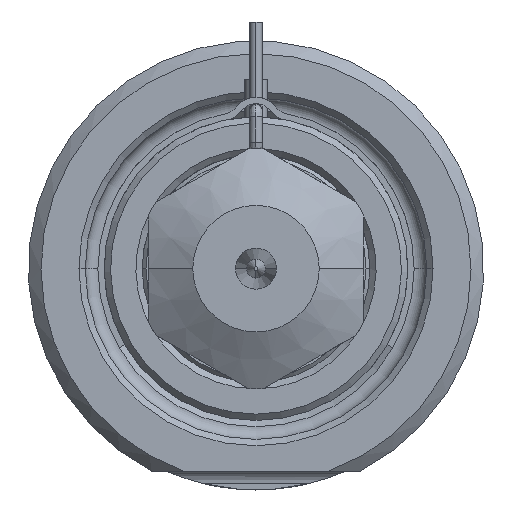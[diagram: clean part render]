
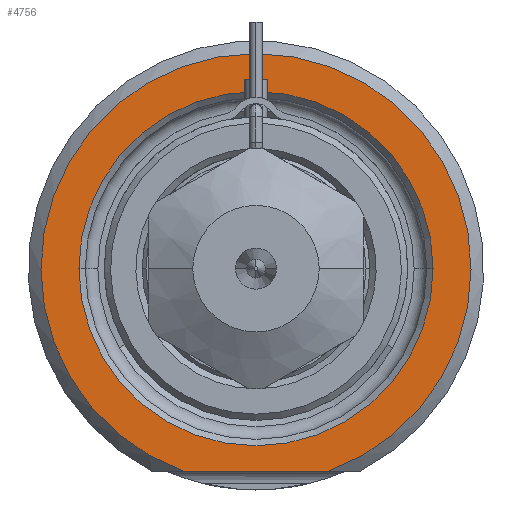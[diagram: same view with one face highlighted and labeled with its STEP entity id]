
A CAD part, front view. The second image highlights one B-rep face of the part: STEP entity #4756.
In plain terms, the highlighted planar face has unit normal (0, -1, 0).
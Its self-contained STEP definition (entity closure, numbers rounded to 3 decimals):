
#1143=CARTESIAN_POINT('',(0.,0.,0.));
#1144=DIRECTION('',(0.,-1.,0.));
#1145=DIRECTION('',(0.338,0.,-0.941));
#1146=AXIS2_PLACEMENT_3D('',#1143,#1144,#1145);
#1167=DIRECTION('',(1.,0.,0.));
#1168=VECTOR('',#1167,11.489);
#1169=CARTESIAN_POINT('',(-5.745,0.,-16.));
#1170=LINE('',#1169,#1168);
#1171=CARTESIAN_POINT('',(0.,0.,0.));
#1172=DIRECTION('',(0.,1.,0.));
#1173=DIRECTION('',(-1.,0.,0.));
#1174=AXIS2_PLACEMENT_3D('',#1171,#1172,#1173);
#1176=CARTESIAN_POINT('',(0.,0.,0.));
#1177=DIRECTION('',(0.,1.,0.));
#1178=DIRECTION('',(1.,0.,0.));
#1179=AXIS2_PLACEMENT_3D('',#1176,#1177,#1178);
#3071=CARTESIAN_POINT('',(-14.,0.,0.));
#3072=CARTESIAN_POINT('',(14.,0.,0.));
#3073=VERTEX_POINT('',#3071);
#3074=VERTEX_POINT('',#3072);
#3111=CARTESIAN_POINT('',(-5.745,0.,-16.));
#3112=CARTESIAN_POINT('',(5.745,0.,-16.));
#3113=VERTEX_POINT('',#3111);
#3114=VERTEX_POINT('',#3112);
#4741=CARTESIAN_POINT('',(0.,0.,0.));
#4742=DIRECTION('',(0.,-1.,0.));
#4743=DIRECTION('',(1.,0.,0.));
#4744=AXIS2_PLACEMENT_3D('',#4741,#4742,#4743);
#4745=PLANE('',#4744);
#4746=ORIENTED_EDGE('',*,*,#4673,.F.);
#4747=ORIENTED_EDGE('',*,*,#4733,.F.);
#4748=EDGE_LOOP('',(#4746,#4747));
#4749=FACE_OUTER_BOUND('',#4748,.F.);
#4751=ORIENTED_EDGE('',*,*,#4750,.F.);
#4753=ORIENTED_EDGE('',*,*,#4752,.F.);
#4754=EDGE_LOOP('',(#4751,#4753));
#4755=FACE_BOUND('',#4754,.F.);
#4756=ADVANCED_FACE('',(#4749,#4755),#4745,.T.);
#1147=CIRCLE('',#1146,17.);
#1175=CIRCLE('',#1174,14.);
#1180=CIRCLE('',#1179,14.);
#4673=EDGE_CURVE('',#3113,#3114,#1170,.T.);
#4733=EDGE_CURVE('',#3114,#3113,#1147,.T.);
#4750=EDGE_CURVE('',#3073,#3074,#1175,.T.);
#4752=EDGE_CURVE('',#3074,#3073,#1180,.T.);
